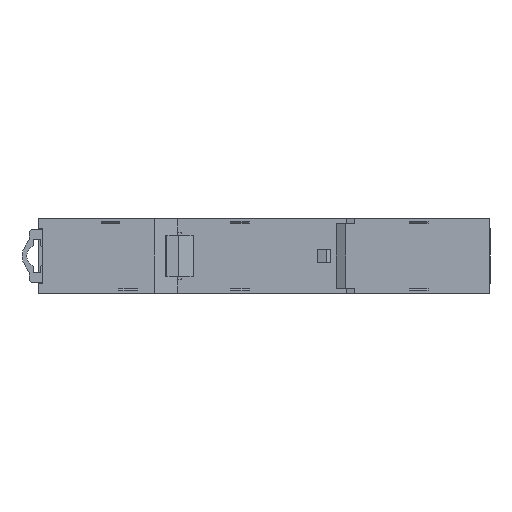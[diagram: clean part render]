
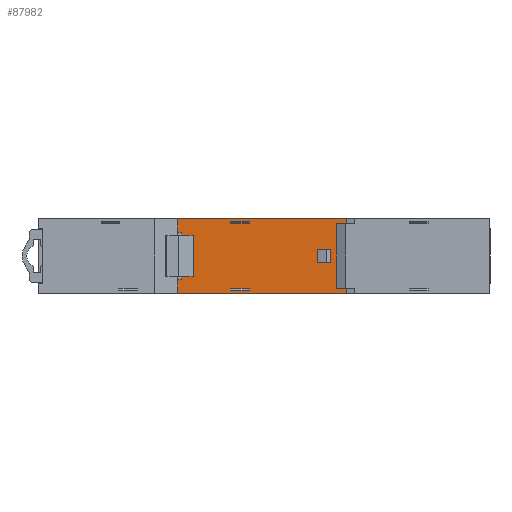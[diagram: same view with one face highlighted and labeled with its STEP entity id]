
A CAD part, front view. The second image highlights one B-rep face of the part: STEP entity #87982.
In plain terms, the highlighted planar face has unit normal (0, -1, 0).
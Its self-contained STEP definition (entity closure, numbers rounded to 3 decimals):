
#15460=ORIENTED_EDGE('',*,*,#31962,.T.);
#15461=ORIENTED_EDGE('',*,*,#31963,.T.);
#15462=ORIENTED_EDGE('',*,*,#31964,.T.);
#15463=ORIENTED_EDGE('',*,*,#31965,.F.);
#15464=ORIENTED_EDGE('',*,*,#31966,.T.);
#15465=ORIENTED_EDGE('',*,*,#31967,.T.);
#15466=ORIENTED_EDGE('',*,*,#31968,.T.);
#15467=ORIENTED_EDGE('',*,*,#31969,.T.);
#15468=ORIENTED_EDGE('',*,*,#31970,.F.);
#15469=ORIENTED_EDGE('',*,*,#31971,.T.);
#15470=ORIENTED_EDGE('',*,*,#31972,.T.);
#15471=ORIENTED_EDGE('',*,*,#31973,.T.);
#15472=ORIENTED_EDGE('',*,*,#31974,.T.);
#15473=ORIENTED_EDGE('',*,*,#31975,.T.);
#15474=ORIENTED_EDGE('',*,*,#31976,.T.);
#15475=ORIENTED_EDGE('',*,*,#31977,.T.);
#15476=ORIENTED_EDGE('',*,*,#31978,.T.);
#15477=ORIENTED_EDGE('',*,*,#31979,.T.);
#15478=ORIENTED_EDGE('',*,*,#31980,.T.);
#15479=ORIENTED_EDGE('',*,*,#31981,.F.);
#15480=ORIENTED_EDGE('',*,*,#31982,.T.);
#15481=ORIENTED_EDGE('',*,*,#31983,.F.);
#15482=ORIENTED_EDGE('',*,*,#31984,.T.);
#15483=ORIENTED_EDGE('',*,*,#31985,.T.);
#15484=ORIENTED_EDGE('',*,*,#31986,.T.);
#15485=ORIENTED_EDGE('',*,*,#31987,.F.);
#15486=ORIENTED_EDGE('',*,*,#31988,.F.);
#15487=ORIENTED_EDGE('',*,*,#31989,.F.);
#31962=EDGE_CURVE('',#47724,#47725,#61059,.T.);
#31963=EDGE_CURVE('',#47725,#47726,#61060,.T.);
#31964=EDGE_CURVE('',#47726,#47727,#61061,.T.);
#31965=EDGE_CURVE('',#47724,#47727,#61062,.T.);
#31966=EDGE_CURVE('',#47728,#47729,#61063,.T.);
#31967=EDGE_CURVE('',#47729,#47730,#61064,.T.);
#31968=EDGE_CURVE('',#47730,#47731,#61065,.T.);
#31969=EDGE_CURVE('',#47731,#47728,#61066,.T.);
#31970=EDGE_CURVE('',#47732,#47733,#61067,.T.);
#31971=EDGE_CURVE('',#47732,#47734,#61068,.T.);
#31972=EDGE_CURVE('',#47734,#47735,#61069,.T.);
#31973=EDGE_CURVE('',#47735,#47733,#61070,.T.);
#31974=EDGE_CURVE('',#47736,#47737,#61071,.T.);
#31975=EDGE_CURVE('',#47737,#47738,#61072,.T.);
#31976=EDGE_CURVE('',#47738,#47739,#61073,.T.);
#31977=EDGE_CURVE('',#47739,#47740,#61074,.T.);
#31978=EDGE_CURVE('',#47740,#47741,#61075,.T.);
#31979=EDGE_CURVE('',#47741,#47742,#61076,.T.);
#31980=EDGE_CURVE('',#47742,#47743,#61077,.T.);
#31981=EDGE_CURVE('',#47744,#47743,#61078,.T.);
#31982=EDGE_CURVE('',#47744,#47745,#61079,.T.);
#31983=EDGE_CURVE('',#47746,#47745,#61080,.T.);
#31984=EDGE_CURVE('',#47746,#47747,#61081,.T.);
#31985=EDGE_CURVE('',#47747,#47748,#61082,.T.);
#31986=EDGE_CURVE('',#47748,#47749,#61083,.T.);
#31987=EDGE_CURVE('',#47750,#47749,#61084,.T.);
#31988=EDGE_CURVE('',#47751,#47750,#61085,.T.);
#31989=EDGE_CURVE('',#47736,#47751,#61086,.T.);
#47724=VERTEX_POINT('',#170730);
#47725=VERTEX_POINT('',#170731);
#47726=VERTEX_POINT('',#170733);
#47727=VERTEX_POINT('',#170735);
#47728=VERTEX_POINT('',#170738);
#47729=VERTEX_POINT('',#170739);
#47730=VERTEX_POINT('',#170741);
#47731=VERTEX_POINT('',#170743);
#47732=VERTEX_POINT('',#170746);
#47733=VERTEX_POINT('',#170747);
#47734=VERTEX_POINT('',#170749);
#47735=VERTEX_POINT('',#170751);
#47736=VERTEX_POINT('',#170754);
#47737=VERTEX_POINT('',#170755);
#47738=VERTEX_POINT('',#170757);
#47739=VERTEX_POINT('',#170759);
#47740=VERTEX_POINT('',#170761);
#47741=VERTEX_POINT('',#170763);
#47742=VERTEX_POINT('',#170765);
#47743=VERTEX_POINT('',#170767);
#47744=VERTEX_POINT('',#170769);
#47745=VERTEX_POINT('',#170771);
#47746=VERTEX_POINT('',#170773);
#47747=VERTEX_POINT('',#170775);
#47748=VERTEX_POINT('',#170777);
#47749=VERTEX_POINT('',#170779);
#47750=VERTEX_POINT('',#170781);
#47751=VERTEX_POINT('',#170783);
#61059=LINE('',#170729,#73987);
#61060=LINE('',#170732,#73988);
#61061=LINE('',#170734,#73989);
#61062=LINE('',#170736,#73990);
#61063=LINE('',#170737,#73991);
#61064=LINE('',#170740,#73992);
#61065=LINE('',#170742,#73993);
#61066=LINE('',#170744,#73994);
#61067=LINE('',#170745,#73995);
#61068=LINE('',#170748,#73996);
#61069=LINE('',#170750,#73997);
#61070=LINE('',#170752,#73998);
#61071=LINE('',#170753,#73999);
#61072=LINE('',#170756,#74000);
#61073=LINE('',#170758,#74001);
#61074=LINE('',#170760,#74002);
#61075=LINE('',#170762,#74003);
#61076=LINE('',#170764,#74004);
#61077=LINE('',#170766,#74005);
#61078=LINE('',#170768,#74006);
#61079=LINE('',#170770,#74007);
#61080=LINE('',#170772,#74008);
#61081=LINE('',#170774,#74009);
#61082=LINE('',#170776,#74010);
#61083=LINE('',#170778,#74011);
#61084=LINE('',#170780,#74012);
#61085=LINE('',#170782,#74013);
#61086=LINE('',#170784,#74014);
#73987=VECTOR('',#137162,1000.);
#73988=VECTOR('',#137163,1000.);
#73989=VECTOR('',#137164,1000.);
#73990=VECTOR('',#137165,1000.);
#73991=VECTOR('',#137166,1000.);
#73992=VECTOR('',#137167,1000.);
#73993=VECTOR('',#137168,1000.);
#73994=VECTOR('',#137169,1000.);
#73995=VECTOR('',#137170,1000.);
#73996=VECTOR('',#137171,1000.);
#73997=VECTOR('',#137172,1000.);
#73998=VECTOR('',#137173,1000.);
#73999=VECTOR('',#137174,1000.);
#74000=VECTOR('',#137175,1000.);
#74001=VECTOR('',#137176,1000.);
#74002=VECTOR('',#137177,1000.);
#74003=VECTOR('',#137178,1000.);
#74004=VECTOR('',#137179,1000.);
#74005=VECTOR('',#137180,1000.);
#74006=VECTOR('',#137181,1000.);
#74007=VECTOR('',#137182,1000.);
#74008=VECTOR('',#137183,1000.);
#74009=VECTOR('',#137184,1000.);
#74010=VECTOR('',#137185,1000.);
#74011=VECTOR('',#137186,1000.);
#74012=VECTOR('',#137187,1000.);
#74013=VECTOR('',#137188,1000.);
#74014=VECTOR('',#137189,1000.);
#79512=EDGE_LOOP('',(#15460,#15461,#15462,#15463));
#79513=EDGE_LOOP('',(#15464,#15465,#15466,#15467));
#79514=EDGE_LOOP('',(#15468,#15469,#15470,#15471));
#79515=EDGE_LOOP('',(#15472,#15473,#15474,#15475,#15476,#15477,#15478,#15479,
#15480,#15481,#15482,#15483,#15484,#15485,#15486,#15487));
#82704=FACE_BOUND('',#79512,.T.);
#82705=FACE_BOUND('',#79513,.T.);
#82706=FACE_BOUND('',#79514,.T.);
#82707=FACE_BOUND('',#79515,.T.);
#85201=PLANE('',#117837);
#87982=ADVANCED_FACE('',(#82704,#82705,#82706,#82707),#85201,.F.);
#117837=AXIS2_PLACEMENT_3D('',#170728,#137160,#137161);
#137160=DIRECTION('',(0.,1.,0.));
#137161=DIRECTION('',(-1.,0.,0.));
#137162=DIRECTION('',(0.,0.,-1.));
#137163=DIRECTION('',(-1.,0.,0.));
#137164=DIRECTION('',(0.,0.,1.));
#137165=DIRECTION('',(-1.,0.,0.));
#137166=DIRECTION('',(-1.,0.,0.));
#137167=DIRECTION('',(0.,0.,1.));
#137168=DIRECTION('',(1.,0.,0.));
#137169=DIRECTION('',(0.,0.,-1.));
#137170=DIRECTION('',(1.,0.,0.));
#137171=DIRECTION('',(0.,0.,1.));
#137172=DIRECTION('',(1.,0.,0.));
#137173=DIRECTION('',(0.,0.,-1.));
#137174=DIRECTION('',(1.,0.,0.));
#137175=DIRECTION('',(0.,0.,-1.));
#137176=DIRECTION('',(1.,0.,0.));
#137177=DIRECTION('',(0.,0.,-1.));
#137178=DIRECTION('',(-1.,0.,0.));
#137179=DIRECTION('',(0.,0.,-1.));
#137180=DIRECTION('',(-1.,0.,0.));
#137181=DIRECTION('',(0.,0.,1.));
#137182=DIRECTION('',(1.,0.,0.));
#137183=DIRECTION('',(0.,0.,-1.));
#137184=DIRECTION('',(-1.,0.,0.));
#137185=DIRECTION('',(0.,0.,1.));
#137186=DIRECTION('',(1.,0.,0.));
#137187=DIRECTION('',(0.,0.,-1.));
#137188=DIRECTION('',(1.,0.,0.));
#137189=DIRECTION('',(0.,0.,1.));
#170728=CARTESIAN_POINT('',(65.,9.6,-7.9));
#170729=CARTESIAN_POINT('',(44.65,9.6,7.448));
#170730=CARTESIAN_POINT('',(44.65,9.6,-6.8));
#170731=CARTESIAN_POINT('',(44.65,9.6,-7.2));
#170732=CARTESIAN_POINT('',(53.825,9.6,-7.2));
#170733=CARTESIAN_POINT('',(40.65,9.6,-7.2));
#170734=CARTESIAN_POINT('',(40.65,9.6,7.448));
#170735=CARTESIAN_POINT('',(40.65,9.6,-6.8));
#170736=CARTESIAN_POINT('',(29.5,9.6,-6.8));
#170737=CARTESIAN_POINT('',(62.759,9.6,-1.4));
#170738=CARTESIAN_POINT('',(61.866,9.6,-1.4));
#170739=CARTESIAN_POINT('',(59.134,9.6,-1.4));
#170740=CARTESIAN_POINT('',(59.134,9.6,-3.95));
#170741=CARTESIAN_POINT('',(59.134,9.6,1.4));
#170742=CARTESIAN_POINT('',(62.759,9.6,1.4));
#170743=CARTESIAN_POINT('',(61.866,9.6,1.4));
#170744=CARTESIAN_POINT('',(61.866,9.6,-3.95));
#170745=CARTESIAN_POINT('',(29.5,9.6,6.8));
#170746=CARTESIAN_POINT('',(40.65,9.6,6.8));
#170747=CARTESIAN_POINT('',(44.65,9.6,6.8));
#170748=CARTESIAN_POINT('',(40.65,9.6,7.448));
#170749=CARTESIAN_POINT('',(40.65,9.6,7.2));
#170750=CARTESIAN_POINT('',(53.825,9.6,7.2));
#170751=CARTESIAN_POINT('',(44.65,9.6,7.2));
#170752=CARTESIAN_POINT('',(44.65,9.6,7.448));
#170753=CARTESIAN_POINT('',(47.66,9.6,4.95));
#170754=CARTESIAN_POINT('',(29.5,9.6,4.95));
#170755=CARTESIAN_POINT('',(30.32,9.6,4.95));
#170756=CARTESIAN_POINT('',(30.32,9.6,-1.775));
#170757=CARTESIAN_POINT('',(30.32,9.6,4.35));
#170758=CARTESIAN_POINT('',(48.875,9.6,4.35));
#170759=CARTESIAN_POINT('',(30.75,9.6,4.35));
#170760=CARTESIAN_POINT('',(30.75,9.6,-6.125));
#170761=CARTESIAN_POINT('',(30.75,9.6,-4.35));
#170762=CARTESIAN_POINT('',(45.31,9.6,-4.35));
#170763=CARTESIAN_POINT('',(30.32,9.6,-4.35));
#170764=CARTESIAN_POINT('',(30.32,9.6,-6.425));
#170765=CARTESIAN_POINT('',(30.32,9.6,-4.95));
#170766=CARTESIAN_POINT('',(46.071,9.6,-4.95));
#170767=CARTESIAN_POINT('',(29.5,9.6,-4.95));
#170768=CARTESIAN_POINT('',(29.5,9.6,-7.9));
#170769=CARTESIAN_POINT('',(29.5,9.6,-7.9));
#170770=CARTESIAN_POINT('',(29.5,9.6,-7.9));
#170771=CARTESIAN_POINT('',(65.1,9.6,-7.9));
#170772=CARTESIAN_POINT('',(65.1,9.6,7.9));
#170773=CARTESIAN_POINT('',(65.1,9.6,-6.8));
#170774=CARTESIAN_POINT('',(53.075,9.6,-6.8));
#170775=CARTESIAN_POINT('',(65.,9.6,-6.8));
#170776=CARTESIAN_POINT('',(65.,9.6,-3.95));
#170777=CARTESIAN_POINT('',(65.,9.6,6.8));
#170778=CARTESIAN_POINT('',(52.4,9.6,6.8));
#170779=CARTESIAN_POINT('',(65.1,9.6,6.8));
#170780=CARTESIAN_POINT('',(65.1,9.6,7.9));
#170781=CARTESIAN_POINT('',(65.1,9.6,7.9));
#170782=CARTESIAN_POINT('',(29.5,9.6,7.9));
#170783=CARTESIAN_POINT('',(29.5,9.6,7.9));
#170784=CARTESIAN_POINT('',(29.5,9.6,-7.9));
